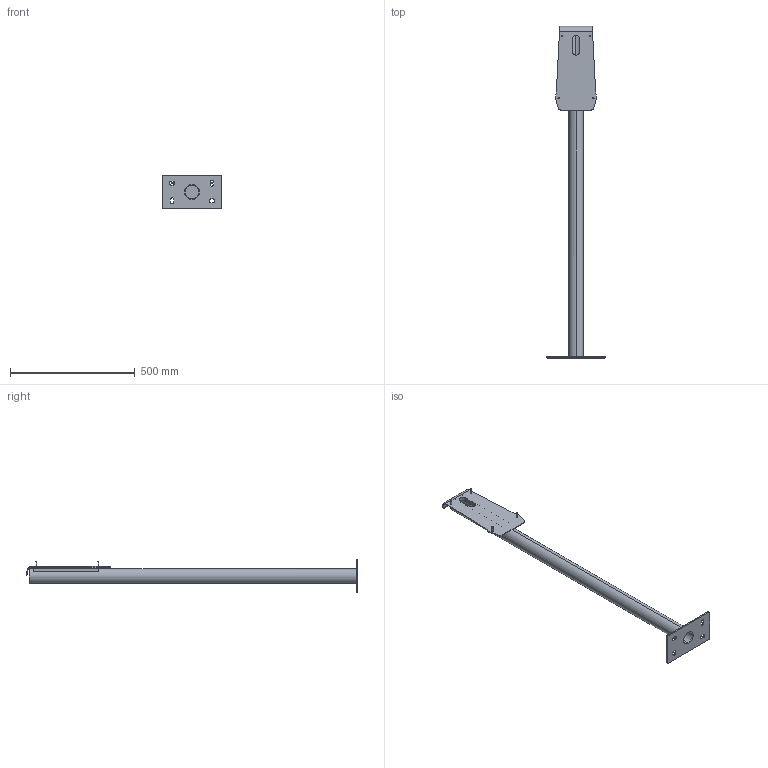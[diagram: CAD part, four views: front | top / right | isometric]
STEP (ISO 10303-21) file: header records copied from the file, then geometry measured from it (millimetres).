
FILE_DESCRIPTION((''),'2;1');
FILE_NAME('STANDFUSS_SW0002','2022-01-06T07:00:20',('hoffmannf'),('MENNEKES'),'CREO PARAMETRIC BY PTC INC, 2019080','CREO PARAMETRIC BY PTC INC, 2019080','');
FILE_SCHEMA(('AUTOMOTIVE_DESIGN { 1 0 10303 214 1 1 1 1 }'));
Length unit declared in the file: millimetre
Products named in the file (1): STANDFUSS_SW0002
Bounding box: 240 x 1332.31 x 135 mm (x, y, z)
Volume: 1107423 mm3; surface area: 632651.6 mm2
Topology: 1 solids, 1 shells, 90 faces, 230 edges, 148 vertices
Faces by surface type: plane 40, cylinder 40, cone 8, bspline 2
Entity records: 3386 total; most frequent: CARTESIAN_POINT 735, DIRECTION 484, ORIENTED_EDGE 460, COLOUR_RGB 300, EDGE_CURVE 230, AXIS2_PLACEMENT_3D 174, VERTEX_POINT 148, VECTOR 136
